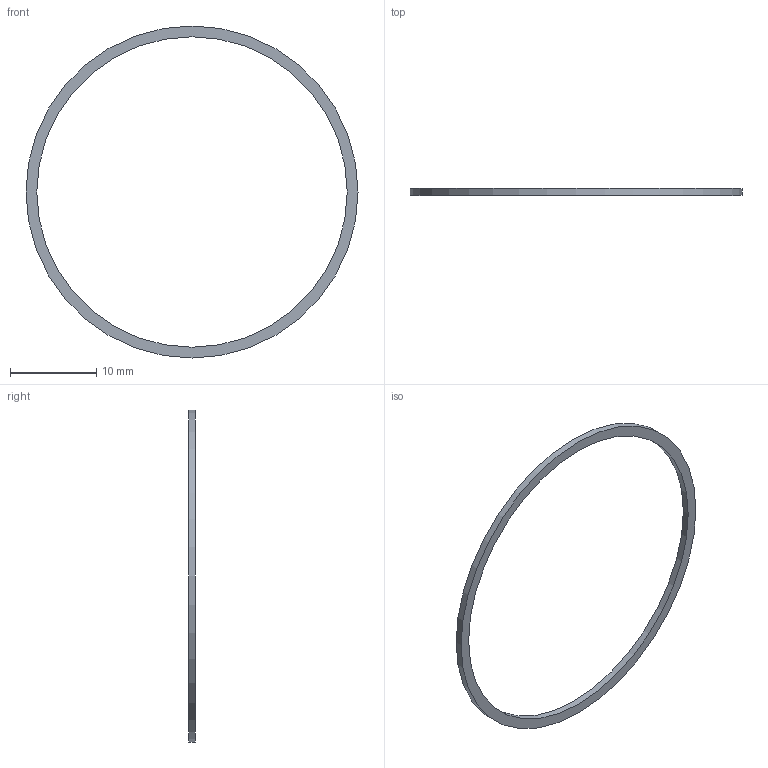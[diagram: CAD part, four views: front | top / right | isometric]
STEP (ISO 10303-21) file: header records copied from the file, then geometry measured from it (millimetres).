
FILE_DESCRIPTION(('Open CASCADE Model'),'2;1');
FILE_NAME('Open CASCADE Shape Model','2026-09-06T11:35:16',('Author'),( 'Open CASCADE'),'Open CASCADE STEP processor 7.8','build123d', 'Unknown');
FILE_SCHEMA(('AUTOMOTIVE_DESIGN { 1 0 10303 214 1 1 1 1 }'));
Length unit declared in the file: millimetre
Products named in the file (1): COMPOUND
Bounding box: 38.5 x 0.8 x 38.5 mm (x, y, z)
Volume: 117 mm3; surface area: 479.8 mm2
Topology: 1 solids, 1 shells, 4 faces, 6 edges, 4 vertices
Faces by surface type: cylinder 2, plane 2
Full cylindrical faces by diameter (mm): 36 x1, 38.5 x1
Entity records: 186 total; most frequent: DIRECTION 32, CARTESIAN_POINT 27, ORIENTED_EDGE 12, PCURVE 12, DEFINITIONAL_REPRESENTATION 12, LINE 10, VECTOR 10, AXIS2_PLACEMENT_3D 9
